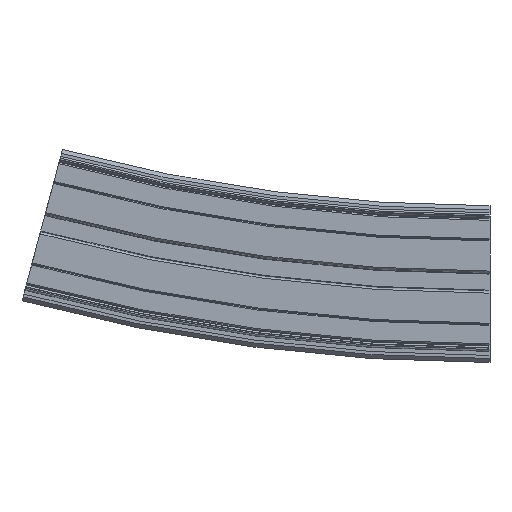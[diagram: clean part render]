
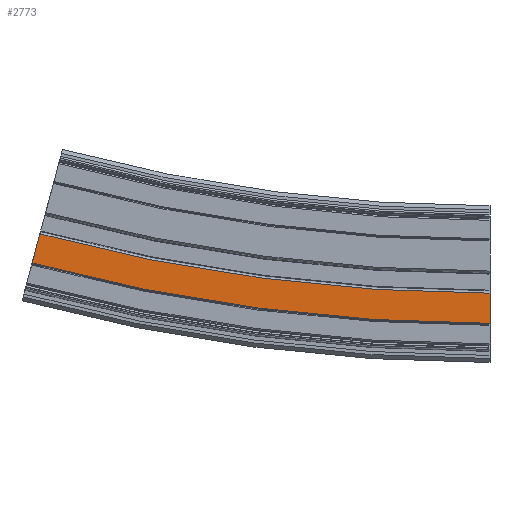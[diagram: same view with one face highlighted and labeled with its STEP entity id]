
A CAD part, left-side view. The second image highlights one B-rep face of the part: STEP entity #2773.
In plain terms, the highlighted planar face has unit normal (-1, 0, 0).
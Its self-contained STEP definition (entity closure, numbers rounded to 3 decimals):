
#267=CIRCLE('',#3020,865.5);
#268=CIRCLE('',#3022,880.5);
#442=FACE_OUTER_BOUND('',#596,.T.);
#596=EDGE_LOOP('',(#2171,#2172,#2173,#2174));
#773=LINE('',#9181,#979);
#774=LINE('',#9183,#980);
#979=VECTOR('',#3622,10.);
#980=VECTOR('',#3623,10.);
#1235=VERTEX_POINT('',#9174);
#1236=VERTEX_POINT('',#9176);
#1237=VERTEX_POINT('',#9180);
#1238=VERTEX_POINT('',#9182);
#1602=EDGE_CURVE('',#1235,#1236,#267,.T.);
#1603=EDGE_CURVE('',#1237,#1235,#773,.T.);
#1604=EDGE_CURVE('',#1238,#1236,#774,.T.);
#1605=EDGE_CURVE('',#1237,#1238,#268,.T.);
#2171=ORIENTED_EDGE('',*,*,#1603,.T.);
#2172=ORIENTED_EDGE('',*,*,#1602,.T.);
#2173=ORIENTED_EDGE('',*,*,#1604,.F.);
#2174=ORIENTED_EDGE('',*,*,#1605,.F.);
#2663=PLANE('',#3021);
#2773=ADVANCED_FACE('',(#442),#2663,.T.);
#3020=AXIS2_PLACEMENT_3D('',#9178,#3618,#3619);
#3021=AXIS2_PLACEMENT_3D('',#9179,#3620,#3621);
#3022=AXIS2_PLACEMENT_3D('',#9184,#3624,#3625);
#3618=DIRECTION('center_axis',(1.,0.,0.));
#3619=DIRECTION('ref_axis',(0.,0.,
-1.));
#3620=DIRECTION('center_axis',(-1.,0.,0.));
#3621=DIRECTION('ref_axis',(0.,0.,1.));
#3622=DIRECTION('',(0.,0.,1.));
#3623=DIRECTION('',(0.,-0.259,0.966));
#3624=DIRECTION('center_axis',(1.,0.,0.));
#3625=DIRECTION('ref_axis',(0.,0.,
-1.));
#9174=CARTESIAN_POINT('',(-32.,0.,-5.5));
#9176=CARTESIAN_POINT('',(-32.,224.008,23.991));
#9178=CARTESIAN_POINT('Origin',(-32.,0.,
860.));
#9179=CARTESIAN_POINT('Origin',(-32.,0.,-20.5));
#9180=CARTESIAN_POINT('',(-32.,0.,-20.5));
#9181=CARTESIAN_POINT('',(-32.,0.,-20.5));
#9182=CARTESIAN_POINT('',(-32.,227.89,9.502));
#9183=CARTESIAN_POINT('',(-32.,227.89,9.502));
#9184=CARTESIAN_POINT('Origin',(-32.,0.,
860.));
